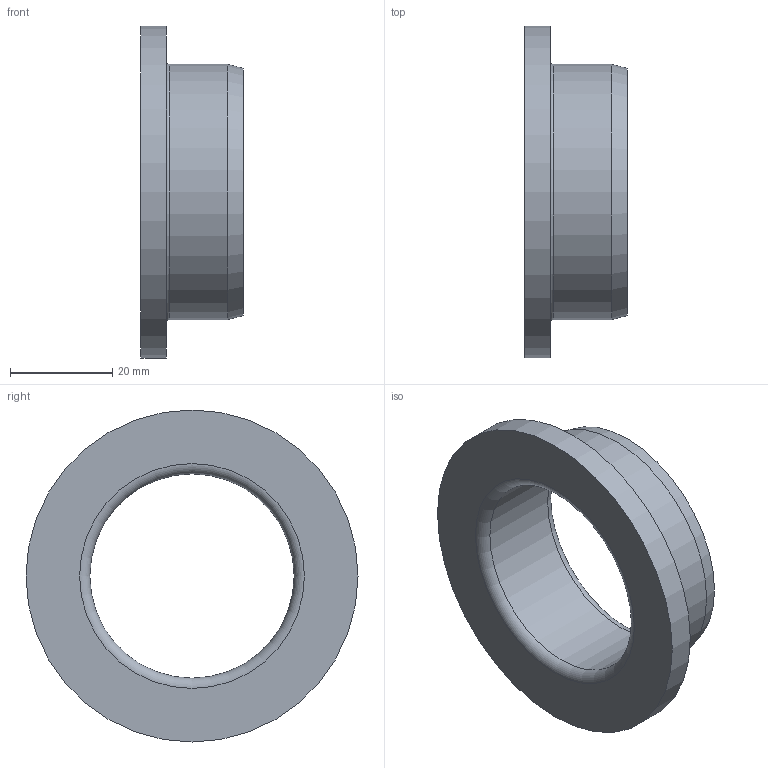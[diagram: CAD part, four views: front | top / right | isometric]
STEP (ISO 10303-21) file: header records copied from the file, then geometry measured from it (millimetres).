
FILE_DESCRIPTION(/* description */ ('Impex Ready, www.impex-ready.pl'),/* implementation_level */ '2;1');
FILE_NAME(/* name */ 'C:\Users\VIKKY\Nextcloud\SM\projekt 10 - części na stronę internetową\Pliki_3D_new\309 Tuleje BG07\309_BG07_STEP\BG07.040020.ipt.step',/* time_stamp */ '2021-12-17T16:45:23+01:00',/* author */ ('SM'),/* organization */ (''),/* preprocessor_version */ 'ST-DEVELOPER v18.1',/* originating_system */ 'Autodesk Inventor 2021',/* authorisation */ '');
FILE_SCHEMA (('AUTOMOTIVE_DESIGN { 1 0 10303 214 3 1 1 }'));
Length unit declared in the file: millimetre
Products named in the file (1): BG07.040020
Bounding box: 20 x 65 x 65 mm (x, y, z)
Volume: 20515.5 mm3; surface area: 9645.9 mm2
Topology: 1 solids, 1 shells, 10 faces, 20 edges, 13 vertices
Faces by surface type: torus 3, cylinder 3, plane 3, cone 1
Full cylindrical faces by diameter (mm): 40 x1, 50 x1, 65 x1
Entity records: 345 total; most frequent: DIRECTION 58, CARTESIAN_POINT 44, ORIENTED_EDGE 40, AXIS2_PLACEMENT_3D 27, EDGE_CURVE 20, CIRCLE 16, EDGE_LOOP 13, VERTEX_POINT 13
